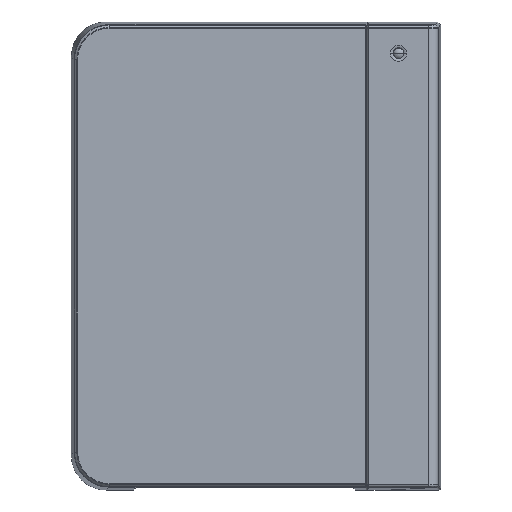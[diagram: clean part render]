
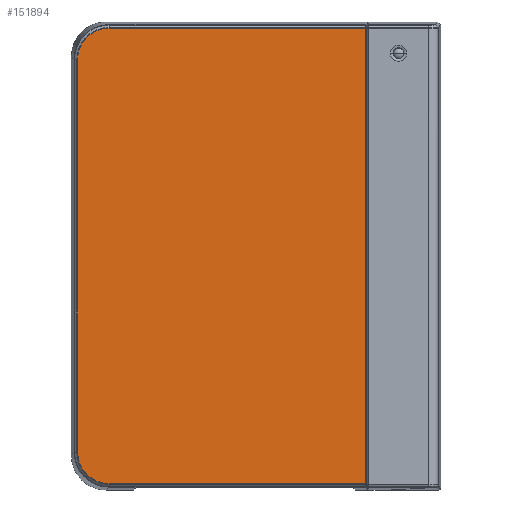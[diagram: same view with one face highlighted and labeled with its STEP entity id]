
A CAD part, top view. The second image highlights one B-rep face of the part: STEP entity #151894.
In plain terms, the highlighted planar face has unit normal (0, 0, 1).
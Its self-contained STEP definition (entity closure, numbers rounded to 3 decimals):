
#151866 = VERTEX_POINT('',#151867);
#151867 = CARTESIAN_POINT('',(94.452,-213.989,49.5));
#151876 = VERTEX_POINT('',#151877);
#151877 = CARTESIAN_POINT('',(94.452,176.989,49.5));
#151884 = EDGE_CURVE('',#151876,#151866,#151885,.T.);
#151885 = LINE('',#151886,#151887);
#151886 = CARTESIAN_POINT('',(94.452,176.989,49.5));
#151887 = VECTOR('',#151888,1.);
#151888 = DIRECTION('',(0.,-1.,0.));
#151894 = ADVANCED_FACE('',(#151895),#151978,.T.);
#151895 = FACE_BOUND('',#151896,.F.);
#151896 = EDGE_LOOP('',(#151897,#151898,#151910,#151918,#151935,#151943,
    #151960,#151968));
#151897 = ORIENTED_EDGE('',*,*,#151884,.T.);
#151898 = ORIENTED_EDGE('',*,*,#151899,.F.);
#151899 = EDGE_CURVE('',#151900,#151866,#151902,.T.);
#151900 = VERTEX_POINT('',#151901);
#151901 = CARTESIAN_POINT('',(94.3,-214.507,49.5));
#151902 = B_SPLINE_CURVE_WITH_KNOTS('',3,(#151903,#151904,#151905,
    #151906,#151907,#151908,#151909),.UNSPECIFIED.,.F.,.F.,(4,1,1,1,4),(
    0.,0.25,0.5,0.75,1.),.QUASI_UNIFORM_KNOTS.);
#151903 = CARTESIAN_POINT('',(94.3,-214.507,49.5));
#151904 = CARTESIAN_POINT('',(94.322,-214.477,49.5));
#151905 = CARTESIAN_POINT('',(94.361,-214.411,49.5));
#151906 = CARTESIAN_POINT('',(94.41,-214.291,49.5));
#151907 = CARTESIAN_POINT('',(94.443,-214.151,49.5));
#151908 = CARTESIAN_POINT('',(94.452,-214.045,49.5));
#151909 = CARTESIAN_POINT('',(94.452,-213.989,49.5));
#151910 = ORIENTED_EDGE('',*,*,#151911,.F.);
#151911 = EDGE_CURVE('',#151912,#151900,#151914,.T.);
#151912 = VERTEX_POINT('',#151913);
#151913 = CARTESIAN_POINT('',(-126.579,-214.507,49.5));
#151914 = LINE('',#151915,#151916);
#151915 = CARTESIAN_POINT('',(-126.579,-214.507,49.5));
#151916 = VECTOR('',#151917,1.);
#151917 = DIRECTION('',(1.,0.,0.));
#151918 = ORIENTED_EDGE('',*,*,#151919,.F.);
#151919 = EDGE_CURVE('',#151920,#151912,#151922,.T.);
#151920 = VERTEX_POINT('',#151921);
#151921 = CARTESIAN_POINT('',(-153.507,-187.578,49.5));
#151922 = B_SPLINE_CURVE_WITH_KNOTS('',3,(#151923,#151924,#151925,
    #151926,#151927,#151928,#151929,#151930,#151931,#151932,#151933,
    #151934),.UNSPECIFIED.,.F.,.F.,(4,1,1,1,1,1,1,1,1,4),(0.,
    0.111,0.222,0.333,0.444,
    0.556,0.667,0.778,0.889,1.),
  .UNSPECIFIED.);
#151923 = CARTESIAN_POINT('',(-153.507,-187.578,49.5));
#151924 = CARTESIAN_POINT('',(-153.51,-189.322,49.5));
#151925 = CARTESIAN_POINT('',(-153.171,-192.698,49.5));
#151926 = CARTESIAN_POINT('',(-151.822,-197.392,49.5));
#151927 = CARTESIAN_POINT('',(-149.618,-201.828,49.5));
#151928 = CARTESIAN_POINT('',(-146.654,-205.769,49.5));
#151929 = CARTESIAN_POINT('',(-142.999,-209.128,49.5));
#151930 = CARTESIAN_POINT('',(-138.831,-211.729,49.5));
#151931 = CARTESIAN_POINT('',(-134.508,-213.448,49.5));
#151932 = CARTESIAN_POINT('',(-130.319,-214.35,49.5));
#151933 = CARTESIAN_POINT('',(-127.791,-214.51,49.5));
#151934 = CARTESIAN_POINT('',(-126.579,-214.507,49.5));
#151935 = ORIENTED_EDGE('',*,*,#151936,.F.);
#151936 = EDGE_CURVE('',#151937,#151920,#151939,.T.);
#151937 = VERTEX_POINT('',#151938);
#151938 = CARTESIAN_POINT('',(-153.507,150.579,49.5));
#151939 = LINE('',#151940,#151941);
#151940 = CARTESIAN_POINT('',(-153.507,150.579,49.5));
#151941 = VECTOR('',#151942,1.);
#151942 = DIRECTION('',(0.,-1.,0.));
#151943 = ORIENTED_EDGE('',*,*,#151944,.F.);
#151944 = EDGE_CURVE('',#151945,#151937,#151947,.T.);
#151945 = VERTEX_POINT('',#151946);
#151946 = CARTESIAN_POINT('',(-126.578,177.507,49.5));
#151947 = B_SPLINE_CURVE_WITH_KNOTS('',3,(#151948,#151949,#151950,
    #151951,#151952,#151953,#151954,#151955,#151956,#151957,#151958,
    #151959),.UNSPECIFIED.,.F.,.F.,(4,1,1,1,1,1,1,1,1,4),(0.,
    0.111,0.222,0.333,0.444,
    0.556,0.667,0.778,0.889,1.),
  .UNSPECIFIED.);
#151948 = CARTESIAN_POINT('',(-126.578,177.507,49.5));
#151949 = CARTESIAN_POINT('',(-128.322,177.51,49.5));
#151950 = CARTESIAN_POINT('',(-131.698,177.171,49.5));
#151951 = CARTESIAN_POINT('',(-136.392,175.822,49.5));
#151952 = CARTESIAN_POINT('',(-140.828,173.618,49.5));
#151953 = CARTESIAN_POINT('',(-144.769,170.654,49.5));
#151954 = CARTESIAN_POINT('',(-148.128,166.999,49.5));
#151955 = CARTESIAN_POINT('',(-150.729,162.831,49.5));
#151956 = CARTESIAN_POINT('',(-152.448,158.508,49.5));
#151957 = CARTESIAN_POINT('',(-153.35,154.319,49.5));
#151958 = CARTESIAN_POINT('',(-153.51,151.791,49.5));
#151959 = CARTESIAN_POINT('',(-153.507,150.579,49.5));
#151960 = ORIENTED_EDGE('',*,*,#151961,.F.);
#151961 = EDGE_CURVE('',#151962,#151945,#151964,.T.);
#151962 = VERTEX_POINT('',#151963);
#151963 = CARTESIAN_POINT('',(94.3,177.507,49.5));
#151964 = LINE('',#151965,#151966);
#151965 = CARTESIAN_POINT('',(94.3,177.507,49.5));
#151966 = VECTOR('',#151967,1.);
#151967 = DIRECTION('',(-1.,0.,0.));
#151968 = ORIENTED_EDGE('',*,*,#151969,.T.);
#151969 = EDGE_CURVE('',#151962,#151876,#151970,.T.);
#151970 = B_SPLINE_CURVE_WITH_KNOTS('',3,(#151971,#151972,#151973,
    #151974,#151975,#151976,#151977),.UNSPECIFIED.,.F.,.F.,(4,1,1,1,4),(
    0.,0.25,0.5,0.75,1.),.QUASI_UNIFORM_KNOTS.);
#151971 = CARTESIAN_POINT('',(94.3,177.507,49.5));
#151972 = CARTESIAN_POINT('',(94.322,177.477,49.5));
#151973 = CARTESIAN_POINT('',(94.361,177.411,49.5));
#151974 = CARTESIAN_POINT('',(94.41,177.29,49.5));
#151975 = CARTESIAN_POINT('',(94.443,177.148,49.5));
#151976 = CARTESIAN_POINT('',(94.452,177.044,49.5));
#151977 = CARTESIAN_POINT('',(94.452,176.989,49.5));
#151978 = PLANE('',#151979);
#151979 = AXIS2_PLACEMENT_3D('',#151980,#151981,#151982);
#151980 = CARTESIAN_POINT('',(0.,0.,49.5));
#151981 = DIRECTION('',(0.,0.,1.));
#151982 = DIRECTION('',(1.,0.,-0.));
